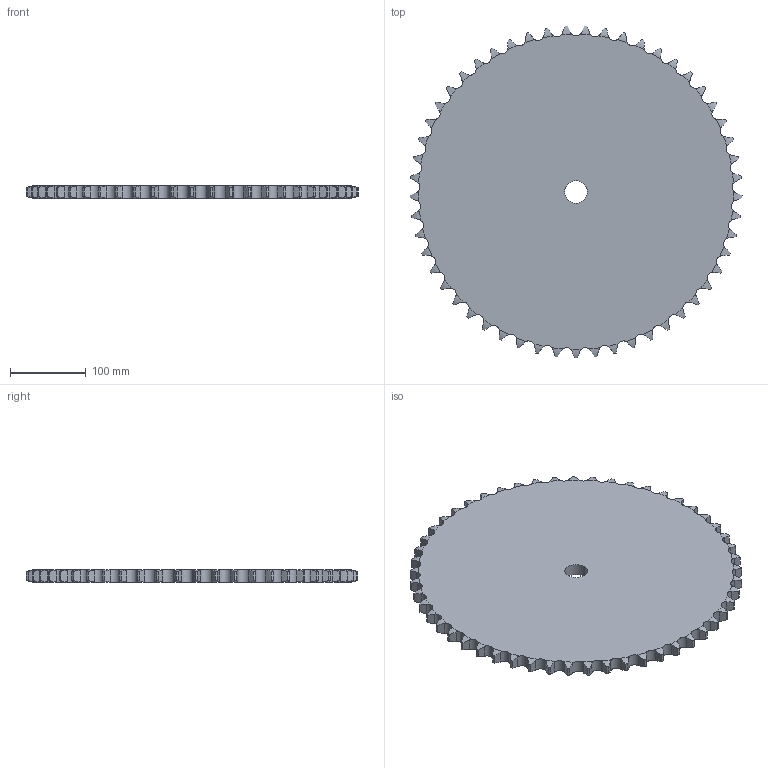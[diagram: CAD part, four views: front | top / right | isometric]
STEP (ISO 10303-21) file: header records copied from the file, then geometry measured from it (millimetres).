
FILE_DESCRIPTION((''),'2;1');
FILE_NAME('500-501-0053_PRT','2021-02-12T',('Brieden'),('Brieden'),'PRO/ENGINEER BY PARAMETRIC TECHNOLOGY CORPORATION, 2010160','PRO/ENGINEER BY PARAMETRIC TECHNOLOGY CORPORATION, 2010160','');
FILE_SCHEMA(('AUTOMOTIVE_DESIGN { 1 0 10303 214 1 1 1 1 }'));
Length unit declared in the file: millimetre
Products named in the file (1): 500-501-0053_PRT
Bounding box: 438.93 x 438.74 x 16.2 mm (x, y, z)
Volume: 2258356 mm3; surface area: 312328.1 mm2
Topology: 1 solids, 1 shells, 322 faces, 960 edges, 640 vertices
Faces by surface type: cylinder 214, torus 106, plane 2
Entity records: 16110 total; most frequent: CARTESIAN_POINT 5023, ORIENTED_EDGE 1920, DIRECTION 1502, PRESENTATION_STYLE_ASSIGNMENT 961, STYLED_ITEM 961, CURVE_STYLE 960, EDGE_CURVE 960, AXIS2_PLACEMENT_3D 644
